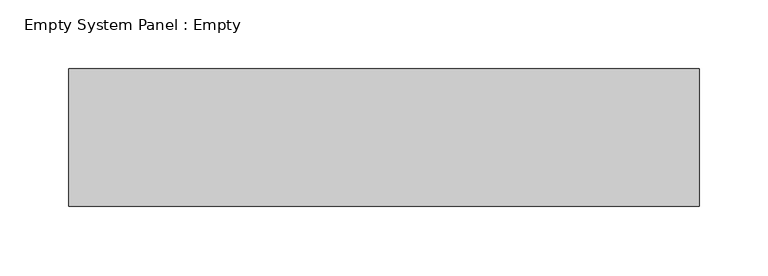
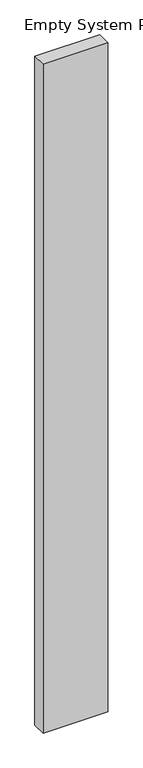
"""IFC4 building model written with IfcOpenShell, lengths in millimetres: plate geometry, Empty System Panel : Empty."""

from ifc_helpers import new_model, si_unit, origin, origin_with_axes, place, context, project, spatial, polyline, outline, extrude, source, transform, mapped, element, save


def empty_system_panel_empty_694f84fb(model_context):
    return source(origin(), model_context, "Body", "SweptSolid", [
        extrude(outline(polyline([(229.6046705, -50.0), (-229.6046705, -50.0), (-229.6046705, 50.0), (229.6046705, 50.0), (229.6046705, -50.0)])), origin_with_axes(), (0.0, 0.0, 1.0), 5015.4896072),
    ])


if __name__ == "__main__":
    model = new_model("IFC4")
    model_context = context("Model", 3, world=origin())
    ifc_project = project(units=[si_unit("LENGTHUNIT", "METRE", prefix="MILLI")], contexts=[model_context])
    site = spatial("IfcSite", under=ifc_project)
    building = spatial("IfcBuilding", under=site)
    placement = place(None, origin())
    empty_system_panel_empty_shape = empty_system_panel_empty_694f84fb(model_context)
    element("IfcPlate", 1, ObjectType="Empty System Panel : Empty", at=placement, inside=building, context=model_context, shape_type="MappedRepresentation", body=[
        mapped(empty_system_panel_empty_shape, transform((0.0, 0.0, 0.0), x_axis=(1.0, 0.0, 0.0), y_axis=(0.0, 1.0, 0.0), z_axis=(0.0, 0.0, 1.0))),
    ])
    save(model, "model.ifc")
